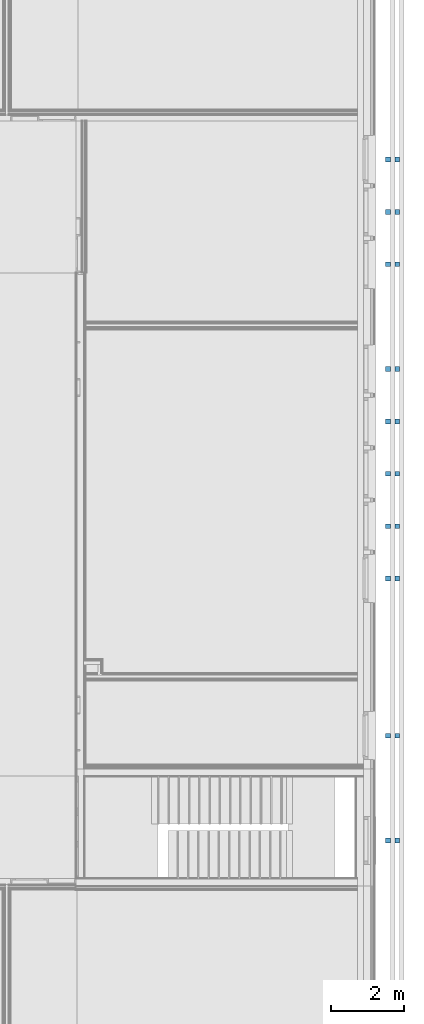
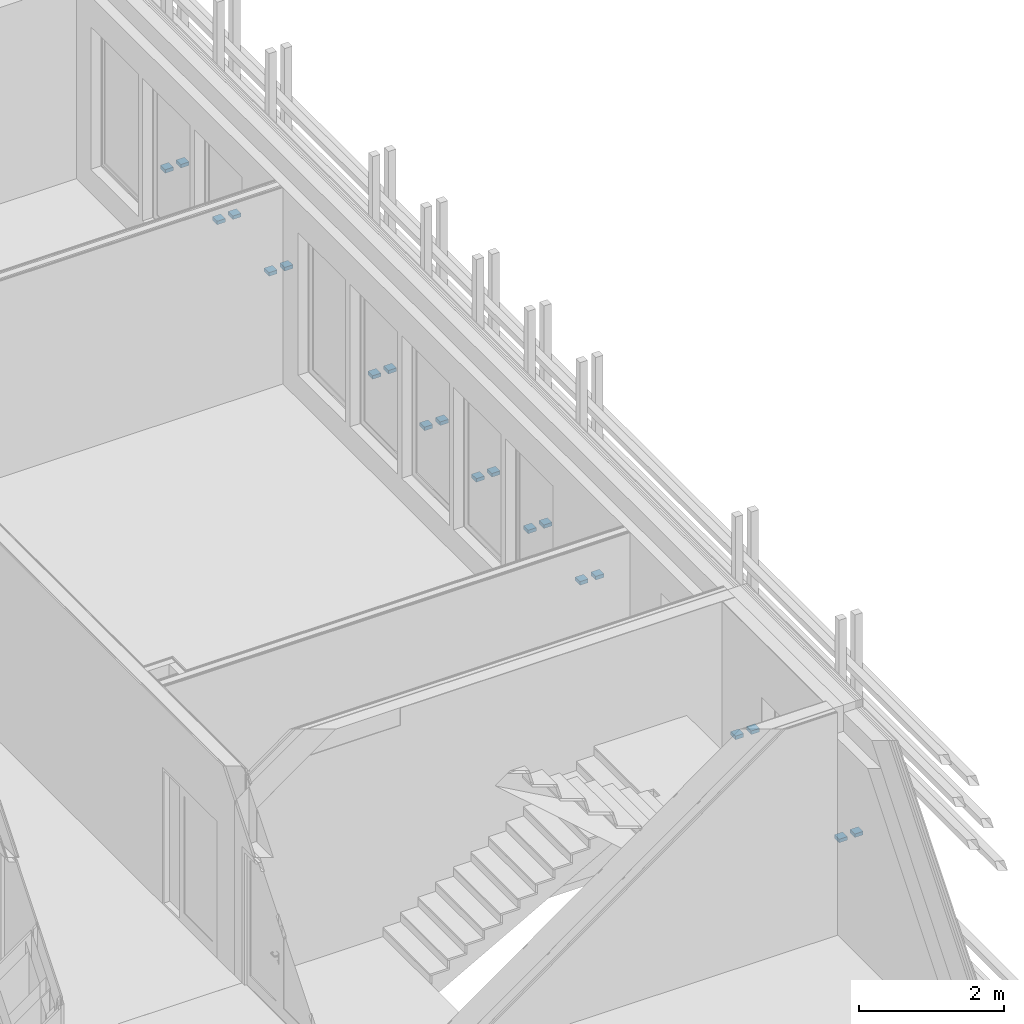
# One storey, part 28 of 139: 20 discrete accessories.
"""IFC2X3 building model written with IfcOpenShell, lengths in millimetres."""

from ifc_helpers import new_model, entity, si_unit, converted_unit, derived_unit, money_unit, direction, frame, origin_with_axes, place, context, subcontext, project, spatial, faceted_brep, source, transform, mapped, material, type_object, element, save


model = new_model("IFC2X3")

# Units and contexts
model_context = context("Model", 3, precision=0.01, world=origin_with_axes(), true_north=direction((0.0, 1.0)))
body_context = subcontext(model_context, "Body", "Model", "MODEL_VIEW")
ifc_project = project(units=[si_unit("LENGTHUNIT", "METRE", prefix="MILLI"), si_unit("AREAUNIT", "SQUARE_METRE"), si_unit("VOLUMEUNIT", "CUBIC_METRE"), converted_unit("PLANEANGLEUNIT", "DEGREE", entity("IfcPlaneAngleMeasure", 0.0174532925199), si_unit("PLANEANGLEUNIT", "RADIAN"), dimensions=[0, 0, 0, 0, 0, 0, 0]), money_unit("EUR"), converted_unit("TIMEUNIT", "Year", entity("IfcTimeMeasure", 31556926.0), si_unit("TIMEUNIT", "SECOND"), dimensions=[0, 0, 1, 0, 0, 0, 0]), si_unit("MASSUNIT", "GRAM", prefix="KILO"), si_unit("THERMODYNAMICTEMPERATUREUNIT", "DEGREE_CELSIUS"), si_unit("LUMINOUSINTENSITYUNIT", "LUMEN"), si_unit("ENERGYUNIT", "JOULE", prefix="MEGA"), derived_unit("THERMALCONDUCTANCEUNIT", [(si_unit("POWERUNIT", "WATT"), 1), (si_unit("LENGTHUNIT", "METRE"), -1), (si_unit("THERMODYNAMICTEMPERATUREUNIT", "KELVIN"), -1)]), derived_unit("SPECIFICHEATCAPACITYUNIT", [(si_unit("ENERGYUNIT", "JOULE"), 1), (si_unit("MASSUNIT", "GRAM", prefix="KILO"), -1), (si_unit("THERMODYNAMICTEMPERATUREUNIT", "KELVIN"), -1)]), derived_unit("MASSDENSITYUNIT", [(si_unit("MASSUNIT", "GRAM", prefix="KILO"), 1), (si_unit("VOLUMEUNIT", "CUBIC_METRE"), -1)])], contexts=[model_context])

# Site, building, storey
site_placement = place(None, origin_with_axes())
site = spatial("IfcSite", under=ifc_project, at=site_placement, Name="Kolde pst 67a", CompositionType="ELEMENT")
building_placement = place(site_placement, origin_with_axes())
building = spatial("IfcBuilding", under=site, at=building_placement, Name="Riigigümnaasium", CompositionType="ELEMENT")
storey_placement = place(building_placement, frame((0.0, 0.0, 4600.0), z_axis=(0.0, 0.0, 1.0), x_axis=(1.0, 0.0, 0.0)))
storey = spatial("IfcBuildingStorey", under=building, at=storey_placement, Name="2. korrus", CompositionType="ELEMENT", Elevation=4600.0)

# Discrete accessories
ifc_material = material(Name="_METALL - teras")
discrete_accessory_type = type_object("IfcDiscreteAccessoryType", Name="Ribi mütsike")
shared_shape = source(origin_with_axes(), body_context, "Body", "Brep", [
    faceted_brep([(130.599681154, 0.599686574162, 59.9999991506), (131.19964603, -0.000354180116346, 59.9999991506), (131.20794202, 131.19964603, 59.9999991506), (130.607901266, 130.599681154, 59.9999991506), (131.19964603, -0.000354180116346, 0.0), (65.6037939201, 65.6037939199, 63.4372869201), (65.6037939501, 65.6037939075, 62.8830381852), (130.599681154, 0.599686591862, 59.4568348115), (130.599681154, 0.599686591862, 19.9999983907), (130.599683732, 0.599683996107, 0.60000014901), (129.299765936, 1.89976619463, 0.60000014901), (129.299765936, 1.899766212, 19.9999983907), (128.699802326, 2.49980569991, 19.9999983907), (128.699802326, 2.49980569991, 0.0), (131.20794202, 131.19964603, 0.0), (128.707782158, 128.699802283, 0.0), (128.707782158, 128.699802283, 19.9999983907), (129.307821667, 129.299765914, 19.9999983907), (129.307821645, 129.299765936, 0.60000014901), (130.607903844, 130.599683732, 0.60000014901), (130.607901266, 130.599681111, 19.9999983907), (130.607901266, 130.599681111, 59.4568348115)], [[[0, 1, 2, 3]], [[4, 1, 0, 5, 6, 7, 8, 9, 10, 11, 12, 13]], [[1, 4, 14, 2]], [[6, 5, 3, 2, 14, 15, 16, 17, 18, 19, 20, 21]], [[5, 0, 3]], [[7, 6, 21]], [[8, 7, 21, 20, 19, 9]], [[10, 9, 19, 18]], [[11, 10, 18, 17]], [[12, 11, 17, 16]], [[13, 12, 16, 15]], [[4, 13, 15, 14]]]),
    faceted_brep([(0.607906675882, 130.607901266, 59.9999991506), (65.6037939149, 65.6037939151, 63.4372869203), (130.607901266, 130.599681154, 59.9999991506), (65.603793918, 65.6037939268, 62.8830381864), (0.00794179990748, 131.20794202, 59.9999991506), (0.00794179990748, 131.20794202, 0.0), (2.50778551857, 128.707782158, 0.0), (2.50778551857, 128.707782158, 19.9999983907), (1.90782190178, 129.307821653, 19.9999983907), (1.90782189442, 129.307821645, 0.60000014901), (0.607904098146, 130.607903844, 0.60000014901), (0.60790669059, 130.607901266, 19.9999983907), (0.60790669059, 130.607901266, 59.4568348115), (130.607901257, 130.599681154, 59.4568348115), (130.607901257, 130.599681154, 19.9999983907), (130.607903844, 130.599683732, 0.60000014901), (129.307821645, 129.299765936, 0.60000014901), (129.307821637, 129.299765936, 19.9999983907), (128.707782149, 128.699802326, 19.9999983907), (128.707782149, 128.699802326, 0.0), (131.20794202, 131.19964603, 0.0), (131.20794202, 131.19964603, 59.9999991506)], [[[0, 1, 2]], [[3, 1, 0, 4, 5, 6, 7, 8, 9, 10, 11, 12]], [[1, 3, 13, 14, 15, 16, 17, 18, 19, 20, 21, 2]], [[4, 0, 2, 21]], [[5, 4, 21, 20]], [[6, 5, 20, 19]], [[7, 6, 19, 18]], [[8, 7, 18, 17]], [[9, 8, 17, 16]], [[10, 9, 16, 15]], [[11, 10, 15, 14, 13, 12]], [[3, 12, 13]]]),
    faceted_brep([(0.599686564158, 0.607906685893, 59.9999991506), (65.6037939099, 65.6037939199, 63.4372869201), (0.607906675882, 130.607901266, 59.9999991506), (65.6037939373, 65.6037939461, 62.8830381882), (-0.000354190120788, 0.00794180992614, 59.9999991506), (-0.000354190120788, 0.00794180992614, 0.0), (2.4998056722, 2.50778551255, 0.0), (2.4998056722, 2.50778551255, 19.9999983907), (1.89976618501, 1.90782190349, 19.9999983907), (1.89976618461, 1.90782190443, 0.60000014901), (0.599683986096, 0.607904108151, 0.60000014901), (0.599686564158, 0.607906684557, 19.9999983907), (0.599686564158, 0.607906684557, 59.4568348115), (0.607906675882, 130.607901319, 59.4568348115), (0.607906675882, 130.607901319, 19.9999983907), (0.607904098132, 130.607903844, 0.60000014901), (1.90782189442, 129.307821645, 0.60000014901), (1.90782192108, 129.307821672, 19.9999983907), (2.50778550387, 128.707782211, 19.9999983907), (2.50778550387, 128.707782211, 0.0), (0.0079417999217, 131.20794202, 0.0), (0.0079417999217, 131.20794202, 59.9999991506)], [[[0, 1, 2]], [[3, 1, 0, 4, 5, 6, 7, 8, 9, 10, 11, 12]], [[1, 3, 13, 14, 15, 16, 17, 18, 19, 20, 21, 2]], [[4, 0, 2, 21]], [[5, 4, 21, 20]], [[6, 5, 20, 19]], [[7, 6, 19, 18]], [[8, 7, 18, 17]], [[9, 8, 17, 16]], [[10, 9, 16, 15]], [[11, 10, 15, 14, 13, 12]], [[3, 12, 13]]]),
    faceted_brep([(65.603793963, 65.6037939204, 62.8830381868), (65.6037939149, 65.6037939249, 63.4372869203), (130.599681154, 0.599686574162, 59.9999991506), (131.19964603, -0.000354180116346, 59.9999991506), (131.19964603, -0.000354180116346, 0.0), (128.699802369, 2.49980568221, 0.0), (128.699802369, 2.49980568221, 19.9999983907), (129.299765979, 1.89976619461, 19.9999983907), (129.299765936, 1.89976619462, 0.60000014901), (130.599683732, 0.599683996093, 0.60000014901), (130.599681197, 0.599686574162, 19.9999983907), (130.599681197, 0.599686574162, 59.4568348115), (0.599686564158, 0.607906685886, 59.9999991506), (0.599686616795, 0.607906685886, 59.4568348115), (0.599686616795, 0.607906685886, 19.9999983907), (0.599683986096, 0.607904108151, 0.60000014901), (1.89976618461, 1.90782190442, 0.60000014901), (1.89976623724, 1.90782190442, 19.9999983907), (2.49980572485, 2.50778551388, 19.9999983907), (2.49980572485, 2.50778551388, 0.0), (-0.000354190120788, 0.00794180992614, 0.0), (-0.000354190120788, 0.00794180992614, 59.9999991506)], [[[0, 1, 2, 3, 4, 5, 6, 7, 8, 9, 10, 11]], [[12, 1, 0, 13, 14, 15, 16, 17, 18, 19, 20, 21]], [[1, 12, 2]], [[12, 21, 3, 2]], [[21, 20, 4, 3]], [[20, 19, 5, 4]], [[19, 18, 6, 5]], [[18, 17, 7, 6]], [[17, 16, 8, 7]], [[16, 15, 9, 8]], [[14, 13, 11, 10, 9, 15]], [[13, 0, 11]]]),
])
for number, where, z_axis, x_axis, name in (
    (1, (85181.2530928, 8878.74351613, 500.0), (0.0, 0.0, 1.0), (0.0, 1.0, 0.0), "ASTME MOODUL 1:ASTME MOODUL 1"),
    (2, (85431.2530928, 8878.74351613, 500.0), (0.0, 0.0, 1.0), (0.0, 1.0, 0.0), "ASTME MOODUL 1:ASTME MOODUL 1"),
    (3, (85181.2530928, 11738.7435161, 500.0), (0.0, 0.0, 1.0), (0.0, 1.0, 0.0), "ASTME MOODUL 1:ASTME MOODUL 1"),
    (4, (85431.2530928, 11738.7435161, 500.0), (0.0, 0.0, 1.0), (0.0, 1.0, 0.0), "ASTME MOODUL 1:ASTME MOODUL 1"),
    (5, (85181.2530928, 16028.7435161, 500.0), (0.0, 0.0, 1.0), (0.0, 1.0, 0.0), "ASTME MOODUL 1:ASTME MOODUL 1"),
    (6, (85431.2530928, 16028.7435161, 500.0), (0.0, 0.0, 1.0), (0.0, 1.0, 0.0), "ASTME MOODUL 1:ASTME MOODUL 1"),
    (7, (85181.2530928, 17458.7435161, 500.0), (0.0, 0.0, 1.0), (0.0, 1.0, 0.0), "ASTME MOODUL 1:ASTME MOODUL 1"),
    (8, (85431.2530928, 17458.7435161, 500.0), (0.0, 0.0, 1.0), (0.0, 1.0, 0.0), "ASTME MOODUL 1:ASTME MOODUL 1"),
    (9, (85181.2530928, 18888.7435161, 500.0), (0.0, 0.0, 1.0), (0.0, 1.0, 0.0), "ASTME MOODUL 1:ASTME MOODUL 1"),
    (10, (85431.2530928, 18888.7435161, 500.0), (0.0, 0.0, 1.0), (0.0, 1.0, 0.0), "ASTME MOODUL 1:ASTME MOODUL 1"),
    (11, (85181.2530928, 20318.7435161, 500.0), (0.0, 0.0, 1.0), (0.0, 1.0, 0.0), "ASTME MOODUL 1:ASTME MOODUL 1"),
    (12, (85431.2530928, 20318.7435161, 500.0), (0.0, 0.0, 1.0), (0.0, 1.0, 0.0), "ASTME MOODUL 1:ASTME MOODUL 1"),
    (13, (85181.2530928, 21748.7435161, 500.0), (0.0, 0.0, 1.0), (0.0, 1.0, 0.0), "ASTME MOODUL 1:ASTME MOODUL 1"),
    (14, (85431.2530928, 21748.7435161, 500.0), (0.0, 0.0, 1.0), (0.0, 1.0, 0.0), "ASTME MOODUL 1:ASTME MOODUL 1"),
    (15, (85181.2530928, 24608.7435161, 500.0), (0.0, 0.0, 1.0), (0.0, 1.0, 0.0), "ASTME MOODUL 1:ASTME MOODUL 1"),
    (16, (85431.2530928, 24608.7435161, 500.0), (0.0, 0.0, 1.0), (0.0, 1.0, 0.0), "ASTME MOODUL 1:ASTME MOODUL 1"),
    (17, (85181.2530928, 26038.7435161, 500.0), (0.0, 0.0, 1.0), (0.0, 1.0, 0.0), "ASTME MOODUL 1:ASTME MOODUL 1"),
    (18, (85431.2530928, 26038.7435161, 500.0), (0.0, 0.0, 1.0), (0.0, 1.0, 0.0), "ASTME MOODUL 1:ASTME MOODUL 1"),
    (19, (85181.2530928, 27468.7435161, 500.0), (0.0, 0.0, 1.0), (0.0, 1.0, 0.0), "ASTME MOODUL 1:ASTME MOODUL 1"),
    (20, (85431.2530928, 27468.7435161, 500.0), (0.0, 0.0, 1.0), (0.0, 1.0, 0.0), "ASTME MOODUL 1:ASTME MOODUL 1"),
):
    element("IfcDiscreteAccessory", number, at=place(storey_placement, frame(where, z_axis=z_axis, x_axis=x_axis)), inside=storey, type_object=discrete_accessory_type, material=ifc_material, Name=name, context=body_context, shape_type="MappedRepresentation", body=[
        mapped(shared_shape, transform((0.0, 0.0, 0.0))),
    ])

save(model, "model.ifc")
